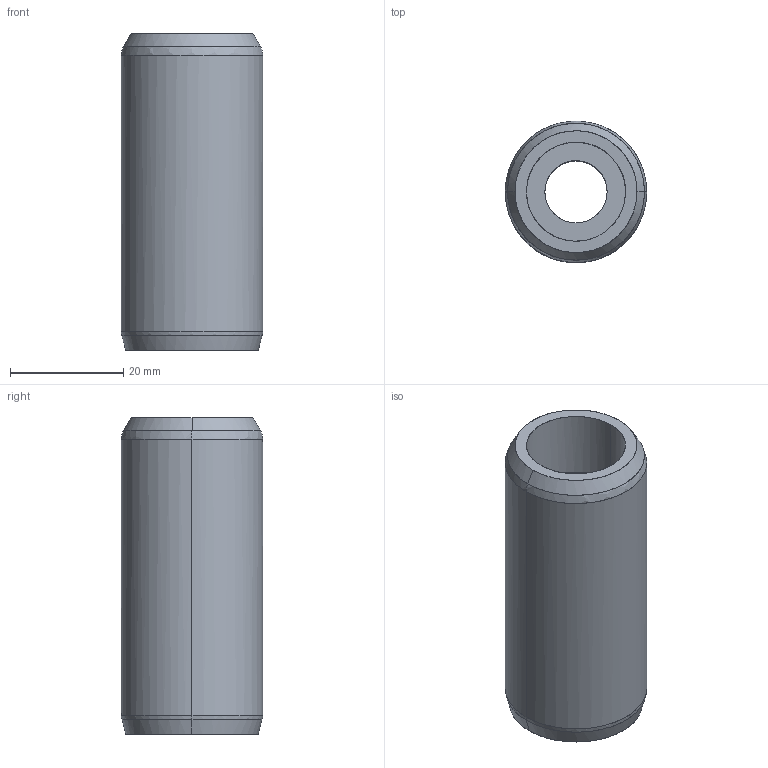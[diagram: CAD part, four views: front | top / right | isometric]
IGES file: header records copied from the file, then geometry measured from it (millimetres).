
Global section: file name: E:\UnigraphicsGraphicData\MISUMI_PRESS-PARTS\IGES\3d_dlpa25_01653_r00.igs; native system: NX V5.0; preprocessor: UGS NX IGES V5.0; author: MISUMI; date: 20110105.160526; units: millimetre
Bounding box: 25 x 24.98 x 56 mm (x, y, z)
Surface area: 7198.9 mm2 (no closed solid volume)
Topology: 0 solids, 0 shells, 17 faces, 104 edges, 104 vertices
Faces by surface type: bspline 17
